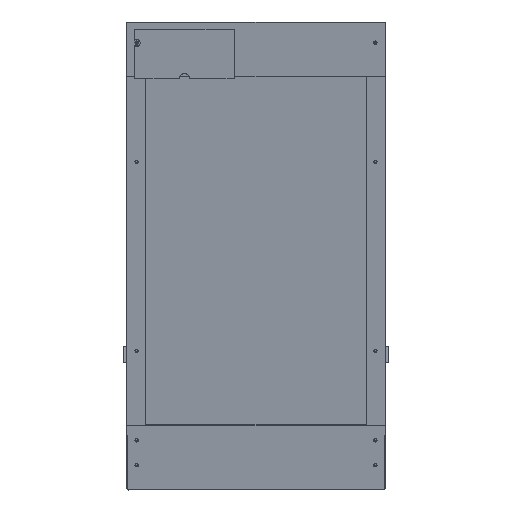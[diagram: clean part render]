
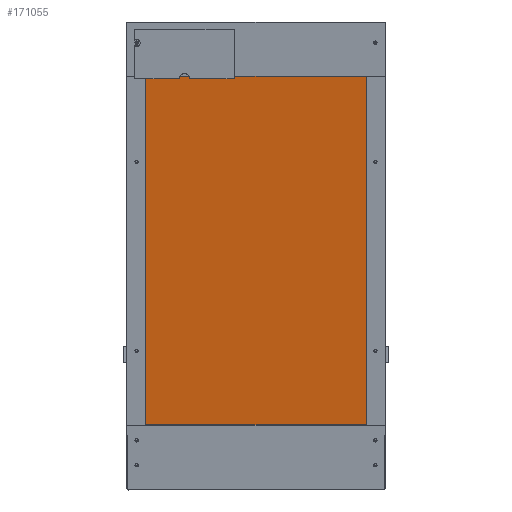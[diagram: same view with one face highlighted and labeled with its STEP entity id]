
A CAD part, top view. The second image highlights one B-rep face of the part: STEP entity #171055.
In plain terms, the highlighted planar face has unit normal (0, -0.174, 0.985).
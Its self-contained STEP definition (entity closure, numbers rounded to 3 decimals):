
#170886 = PLANE('',#170887);
#170887 = AXIS2_PLACEMENT_3D('',#170888,#170889,#170890);
#170888 = CARTESIAN_POINT('',(18.1,64.,86.285));
#170889 = DIRECTION('',(-0.,1.,0.));
#170890 = DIRECTION('',(0.,0.,-1.));
#170914 = PLANE('',#170915);
#170915 = AXIS2_PLACEMENT_3D('',#170916,#170917,#170918);
#170916 = CARTESIAN_POINT('',(241.9,240.675,111.437));
#170917 = DIRECTION('',(1.,0.,0.));
#170918 = DIRECTION('',(-0.,0.,1.));
#170942 = PLANE('',#170943);
#170943 = AXIS2_PLACEMENT_3D('',#170944,#170945,#170946);
#170944 = CARTESIAN_POINT('',(18.1,417.349,136.59));
#170945 = DIRECTION('',(0.,-1.,0.));
#170946 = DIRECTION('',(0.,0.,1.));
#170968 = PLANE('',#170969);
#170969 = AXIS2_PLACEMENT_3D('',#170970,#170971,#170972);
#170970 = CARTESIAN_POINT('',(18.1,240.675,111.437));
#170971 = DIRECTION('',(1.,0.,0.));
#170972 = DIRECTION('',(-0.,0.,1.));
#170985 = VERTEX_POINT('',#170986);
#170986 = CARTESIAN_POINT('',(241.9,417.349,148.59));
#171007 = EDGE_CURVE('',#171008,#170985,#171010,.T.);
#171008 = VERTEX_POINT('',#171009);
#171009 = CARTESIAN_POINT('',(18.1,417.349,148.59));
#171010 = SURFACE_CURVE('',#171011,(#171015,#171022),.PCURVE_S1.);
#171011 = LINE('',#171012,#171013);
#171012 = CARTESIAN_POINT('',(18.1,417.349,148.59));
#171013 = VECTOR('',#171014,1.);
#171014 = DIRECTION('',(1.,0.,0.));
#171015 = PCURVE('',#170942,#171016);
#171016 = DEFINITIONAL_REPRESENTATION('',(#171017),#171021);
#171017 = LINE('',#171018,#171019);
#171018 = CARTESIAN_POINT('',(12.,0.));
#171019 = VECTOR('',#171020,1.);
#171020 = DIRECTION('',(0.,-1.));
#171021 = ( GEOMETRIC_REPRESENTATION_CONTEXT(2) 
PARAMETRIC_REPRESENTATION_CONTEXT() REPRESENTATION_CONTEXT('2D SPACE',''
  ) );
#171022 = PCURVE('',#171023,#171028);
#171023 = PLANE('',#171024);
#171024 = AXIS2_PLACEMENT_3D('',#171025,#171026,#171027);
#171025 = CARTESIAN_POINT('',(18.1,417.349,148.59));
#171026 = DIRECTION('',(0.,0.174,-0.985));
#171027 = DIRECTION('',(0.,-0.985,-0.174));
#171028 = DEFINITIONAL_REPRESENTATION('',(#171029),#171033);
#171029 = LINE('',#171030,#171031);
#171030 = CARTESIAN_POINT('',(0.,0.));
#171031 = VECTOR('',#171032,1.);
#171032 = DIRECTION('',(0.,-1.));
#171033 = ( GEOMETRIC_REPRESENTATION_CONTEXT(2) 
PARAMETRIC_REPRESENTATION_CONTEXT() REPRESENTATION_CONTEXT('2D SPACE',''
  ) );
#171055 = ADVANCED_FACE('',(#171056),#171023,.F.);
#171056 = FACE_BOUND('',#171057,.F.);
#171057 = EDGE_LOOP('',(#171058,#171059,#171082,#171105));
#171058 = ORIENTED_EDGE('',*,*,#171007,.T.);
#171059 = ORIENTED_EDGE('',*,*,#171060,.T.);
#171060 = EDGE_CURVE('',#170985,#171061,#171063,.T.);
#171061 = VERTEX_POINT('',#171062);
#171062 = CARTESIAN_POINT('',(241.9,64.,86.285));
#171063 = SURFACE_CURVE('',#171064,(#171068,#171075),.PCURVE_S1.);
#171064 = LINE('',#171065,#171066);
#171065 = CARTESIAN_POINT('',(241.9,417.349,148.59));
#171066 = VECTOR('',#171067,1.);
#171067 = DIRECTION('',(0.,-0.985,-0.174));
#171068 = PCURVE('',#171023,#171069);
#171069 = DEFINITIONAL_REPRESENTATION('',(#171070),#171074);
#171070 = LINE('',#171071,#171072);
#171071 = CARTESIAN_POINT('',(0.,-223.8));
#171072 = VECTOR('',#171073,1.);
#171073 = DIRECTION('',(1.,0.));
#171074 = ( GEOMETRIC_REPRESENTATION_CONTEXT(2) 
PARAMETRIC_REPRESENTATION_CONTEXT() REPRESENTATION_CONTEXT('2D SPACE',''
  ) );
#171075 = PCURVE('',#170914,#171076);
#171076 = DEFINITIONAL_REPRESENTATION('',(#171077),#171081);
#171077 = LINE('',#171078,#171079);
#171078 = CARTESIAN_POINT('',(37.152,-176.675));
#171079 = VECTOR('',#171080,1.);
#171080 = DIRECTION('',(-0.174,0.985));
#171081 = ( GEOMETRIC_REPRESENTATION_CONTEXT(2) 
PARAMETRIC_REPRESENTATION_CONTEXT() REPRESENTATION_CONTEXT('2D SPACE',''
  ) );
#171082 = ORIENTED_EDGE('',*,*,#171083,.F.);
#171083 = EDGE_CURVE('',#171084,#171061,#171086,.T.);
#171084 = VERTEX_POINT('',#171085);
#171085 = CARTESIAN_POINT('',(18.1,64.,86.285));
#171086 = SURFACE_CURVE('',#171087,(#171091,#171098),.PCURVE_S1.);
#171087 = LINE('',#171088,#171089);
#171088 = CARTESIAN_POINT('',(18.1,64.,86.285));
#171089 = VECTOR('',#171090,1.);
#171090 = DIRECTION('',(1.,0.,0.));
#171091 = PCURVE('',#171023,#171092);
#171092 = DEFINITIONAL_REPRESENTATION('',(#171093),#171097);
#171093 = LINE('',#171094,#171095);
#171094 = CARTESIAN_POINT('',(358.8,0.));
#171095 = VECTOR('',#171096,1.);
#171096 = DIRECTION('',(0.,-1.));
#171097 = ( GEOMETRIC_REPRESENTATION_CONTEXT(2) 
PARAMETRIC_REPRESENTATION_CONTEXT() REPRESENTATION_CONTEXT('2D SPACE',''
  ) );
#171098 = PCURVE('',#170886,#171099);
#171099 = DEFINITIONAL_REPRESENTATION('',(#171100),#171104);
#171100 = LINE('',#171101,#171102);
#171101 = CARTESIAN_POINT('',(0.,0.));
#171102 = VECTOR('',#171103,1.);
#171103 = DIRECTION('',(0.,-1.));
#171104 = ( GEOMETRIC_REPRESENTATION_CONTEXT(2) 
PARAMETRIC_REPRESENTATION_CONTEXT() REPRESENTATION_CONTEXT('2D SPACE',''
  ) );
#171105 = ORIENTED_EDGE('',*,*,#171106,.F.);
#171106 = EDGE_CURVE('',#171008,#171084,#171107,.T.);
#171107 = SURFACE_CURVE('',#171108,(#171112,#171119),.PCURVE_S1.);
#171108 = LINE('',#171109,#171110);
#171109 = CARTESIAN_POINT('',(18.1,417.349,148.59));
#171110 = VECTOR('',#171111,1.);
#171111 = DIRECTION('',(0.,-0.985,-0.174));
#171112 = PCURVE('',#171023,#171113);
#171113 = DEFINITIONAL_REPRESENTATION('',(#171114),#171118);
#171114 = LINE('',#171115,#171116);
#171115 = CARTESIAN_POINT('',(0.,0.));
#171116 = VECTOR('',#171117,1.);
#171117 = DIRECTION('',(1.,0.));
#171118 = ( GEOMETRIC_REPRESENTATION_CONTEXT(2) 
PARAMETRIC_REPRESENTATION_CONTEXT() REPRESENTATION_CONTEXT('2D SPACE',''
  ) );
#171119 = PCURVE('',#170968,#171120);
#171120 = DEFINITIONAL_REPRESENTATION('',(#171121),#171125);
#171121 = LINE('',#171122,#171123);
#171122 = CARTESIAN_POINT('',(37.152,-176.675));
#171123 = VECTOR('',#171124,1.);
#171124 = DIRECTION('',(-0.174,0.985));
#171125 = ( GEOMETRIC_REPRESENTATION_CONTEXT(2) 
PARAMETRIC_REPRESENTATION_CONTEXT() REPRESENTATION_CONTEXT('2D SPACE',''
  ) );
